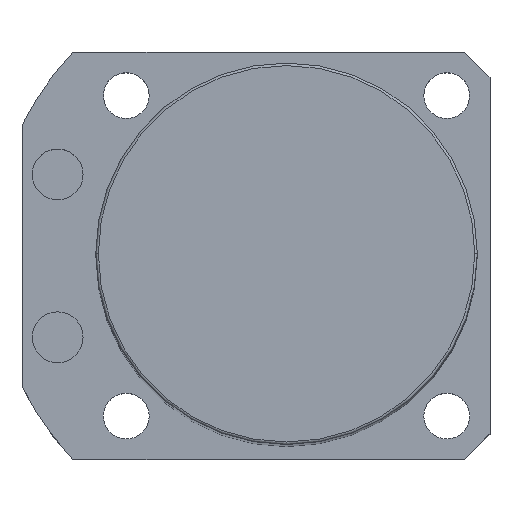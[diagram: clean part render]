
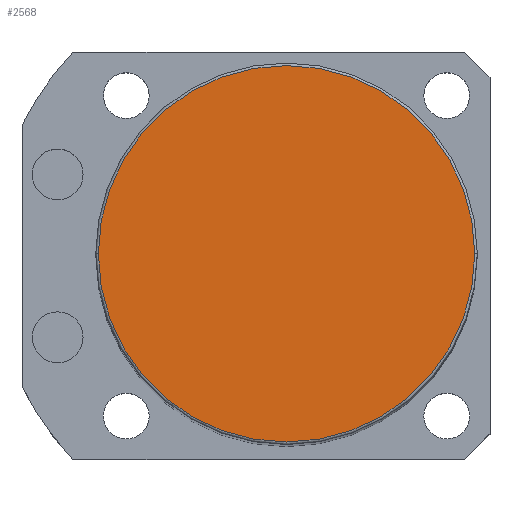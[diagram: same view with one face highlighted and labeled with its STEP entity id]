
A CAD part, top view. The second image highlights one B-rep face of the part: STEP entity #2568.
In plain terms, the highlighted planar face has unit normal (0, 0, 1).
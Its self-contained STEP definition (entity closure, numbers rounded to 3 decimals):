
#242 = CARTESIAN_POINT ( 'NONE',  ( 37., 0., 250.5 ) ) ;
#527 = DIRECTION ( 'NONE',  ( 0., 0., 1. ) ) ;
#1189 = CARTESIAN_POINT ( 'NONE',  ( 0., 0., 250.5 ) ) ;
#1211 = AXIS2_PLACEMENT_3D ( 'NONE', #4157, #527, #2551 ) ;
#1581 = ORIENTED_EDGE ( 'NONE', *, *, #4245, .T. ) ;
#1671 = DIRECTION ( 'NONE',  ( 0., 0., 1. ) ) ;
#1875 = CARTESIAN_POINT ( 'NONE',  ( 0., 0., 250.5 ) ) ;
#2551 = DIRECTION ( 'NONE',  ( 1., 0., 0. ) ) ;
#2568 = ADVANCED_FACE ( 'NONE', ( #6241 ), #2649, .T. ) ;
#2649 = PLANE ( 'NONE',  #2951 ) ;
#2650 = CIRCLE ( 'NONE', #1211, 37. ) ;
#2906 = AXIS2_PLACEMENT_3D ( 'NONE', #1875, #6525, #5431 ) ;
#2951 = AXIS2_PLACEMENT_3D ( 'NONE', #1189, #1671, #5214 ) ;
#2988 = EDGE_CURVE ( 'NONE', #5367, #3262, #2650, .T. ) ;
#3262 = VERTEX_POINT ( 'NONE', #242 ) ;
#4157 = CARTESIAN_POINT ( 'NONE',  ( 0., 0., 250.5 ) ) ;
#4245 = EDGE_CURVE ( 'NONE', #3262, #5367, #5927, .T. ) ;
#5214 = DIRECTION ( 'NONE',  ( 1., 0., 0. ) ) ;
#5367 = VERTEX_POINT ( 'NONE', #5880 ) ;
#5377 = ORIENTED_EDGE ( 'NONE', *, *, #2988, .T. ) ;
#5431 = DIRECTION ( 'NONE',  ( 1., 0., 0. ) ) ;
#5880 = CARTESIAN_POINT ( 'NONE',  ( -37., 0., 250.5 ) ) ;
#5927 = CIRCLE ( 'NONE', #2906, 37. ) ;
#6241 = FACE_OUTER_BOUND ( 'NONE', #6489, .T. ) ;
#6489 = EDGE_LOOP ( 'NONE', ( #1581, #5377 ) ) ;
#6525 = DIRECTION ( 'NONE',  ( 0., 0., 1. ) ) ;
